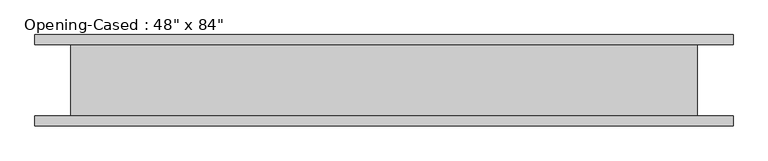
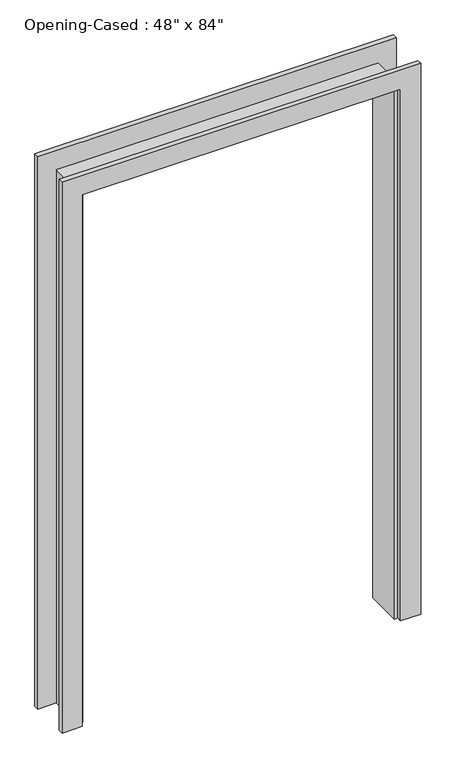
"""IFC4 building model written with IfcOpenShell, lengths in millimetres: proxy geometry."""

from ifc_helpers import new_model, si_unit, frame, origin, place, context, project, spatial, polyline, outline, extrude, faceted_brep, source, transform, mapped, element, save


def proxy_50e7bca7(model_context):
    return source(origin(), model_context, "Body", "SolidModel", [
        extrude(outline(polyline([(0.0, -611.4386567), (2127.25, -611.4386567), (2127.25, 595.0613433), (0.0, 595.0613433), (0.0, 671.2613433), (2203.45, 671.2613433), (2203.45, -687.6386567), (0.0, -687.6386567), (0.0, -611.4386567)])), frame((0.0, -88.9, 0.0), z_axis=(0.0, 1.0, 0.0), x_axis=(0.0, 0.0, 1.0)), (0.0, 0.0, 1.0), 19.05),
        extrude(outline(polyline([(0.0, 671.2613433), (2209.8, 671.2613433), (2209.8, -687.6386567), (0.0, -687.6386567), (0.0, -611.4386567), (2127.25, -611.4386567), (2127.25, 595.0613433), (0.0, 595.0613433), (0.0, 671.2613433)])), frame((0.0, 69.85, 0.0), z_axis=(0.0, 1.0, 0.0), x_axis=(0.0, 0.0, 1.0)), (0.0, 0.0, 1.0), 19.05),
        faceted_brep([(582.3613433, 69.85, 0.0), (601.4113433, 69.85, 0.0), (601.4113433, -69.85, 0.0), (582.3613433, -69.85, 0.0), (582.3613433, 69.85, 2114.55), (601.4113433, 69.85, 2133.6), (601.4113433, -69.85, 2133.6), (582.3613433, -69.85, 2114.55), (-598.7386567, 69.85, 2114.55), (-617.7886567, 69.85, 2133.6), (-617.7886567, -69.85, 2133.6), (-598.7386567, -69.85, 2114.55), (-598.7386567, 69.85, 0.0), (-598.7386567, -69.85, 0.0), (-617.7886567, -69.85, 0.0), (-617.7886567, 69.85, 0.0)], [[[0, 1, 2, 3]], [[1, 0, 4, 5]], [[2, 1, 5, 6]], [[3, 2, 6, 7]], [[0, 3, 7, 4]], [[5, 4, 8, 9]], [[6, 5, 9, 10]], [[7, 6, 10, 11]], [[4, 7, 11, 8]], [[12, 13, 14, 15]], [[9, 8, 12, 15]], [[10, 9, 15, 14]], [[11, 10, 14, 13]], [[8, 11, 13, 12]]]),
    ])


if __name__ == "__main__":
    model = new_model("IFC4")
    model_context = context("Model", 3, world=origin())
    ifc_project = project(units=[si_unit("LENGTHUNIT", "METRE", prefix="MILLI")], contexts=[model_context])
    site = spatial("IfcSite", under=ifc_project)
    building = spatial("IfcBuilding", under=site)
    placement = place(None, origin())
    proxy_shape = proxy_50e7bca7(model_context)
    element("IfcBuildingElementProxy", 1, Name="Opening-Cased : 48\" x 84\"", ObjectType="Opening-Cased : 48\" x 84\"", at=placement, inside=building, context=model_context, shape_type="MappedRepresentation", body=[
        mapped(proxy_shape, transform((0.0, 0.0, 0.0), x_axis=(1.0, 0.0, 0.0), y_axis=(0.0, 1.0, 0.0), z_axis=(0.0, 0.0, 1.0))),
    ])
    save(model, "model.ifc")
